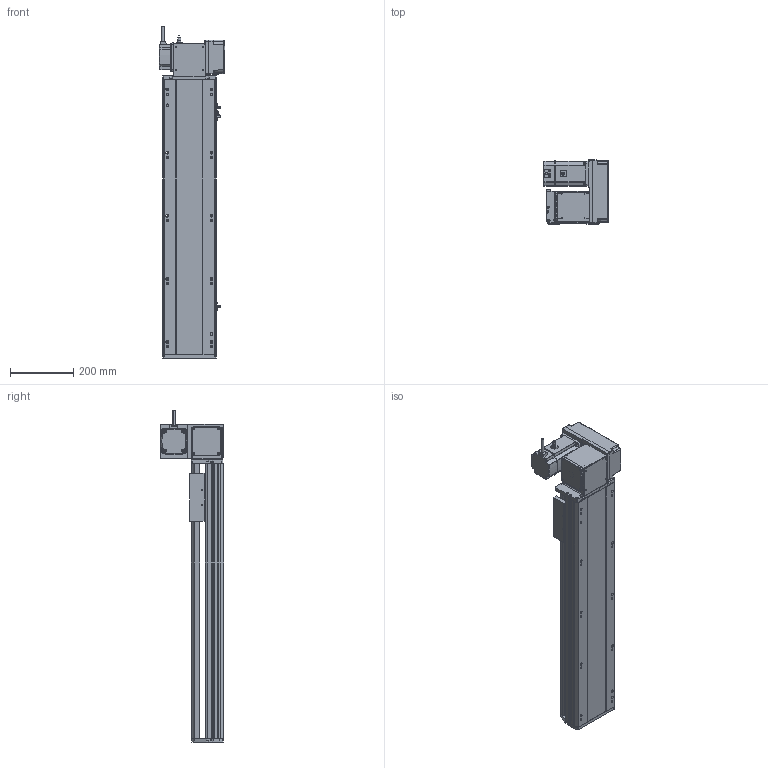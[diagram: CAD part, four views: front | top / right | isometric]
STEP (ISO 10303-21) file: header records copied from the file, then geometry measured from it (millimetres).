
FILE_DESCRIPTION (( 'STEP AP214' ), '1' );
FILE_NAME ('RTB17S-XX-600-RW-M75-C4.STEP', '2025-12-12T02:33:35', ( '' ), ( '' ), 'SwSTEP 2.0', 'SolidWorks 2018', '' );
FILE_SCHEMA (( 'AUTOMOTIVE_DESIGN' ));
Length unit declared in the file: millimetre
Products named in the file (15): RMP17S-L-014-T20-P75--々湍釱^RTB17S-RW-々湍釱蚾饜-750W_RTB17S-XX-XX-RW-M75-C4; 750W萇儂^RTB17S-XX-XX-RW-M75-C4; RTB17S-L-004-賑釱^RTB17S-賑釱_RTB17S-XX-XX-RW-M75-C4; RTB22S-GY-017P^RTB17S-RW-々湍釱蚾饜-750W_RTB17S-XX-XX-RW-M75-C4; RTB17S-RW-々湍釱蚾饜-750W^RTB17S-XX-XX-RW-M75-C4; RTB17S-L-001-耜醱啣^RTB17S-XX-XX-RW-M75-C4; RTB22S-GY-018P^RTB17S-RW-々湍釱蚾饜-750W_RTB17S-XX-XX-RW-M75-C4; RTB22S-GY-008-M75--萇儂啣^RTB17S-RW-々湍釱蚾饜-750W_RTB17S-XX-XX-RW-M75-C4; RTH13-BL-012覜茼え俋离^RTB17S-賑釱_RTB17S-XX-XX-RW-M75-C4; RTB17-R-011菁釱^RTB17S-XX-XX-RW-M75-C4; EE672^RTB17S-XX-XX-RW-M75-C4; RTB17S-賑釱^RTB17S-XX-XX-RW-M75-C4; RTB17S-XX-600-RW-M75-C4; RTB22S-GY-005P^RTB17S-RW-々湍釱蚾饜-750W_RTB17S-XX-XX-RW-M75-C4; RTB17S-L-007奻裔^RTB17S-XX-XX-RW-M75-C4
Assembly tree (17 placements, depth 3):
  RTB17S-XX-600-RW-M75-C4
    RTB17-R-011菁釱^RTB17S-XX-XX-RW-M75-C4
    EE672^RTB17S-XX-XX-RW-M75-C4  x3
    RTB17S-L-001-耜醱啣^RTB17S-XX-XX-RW-M75-C4
    RTB17S-賑釱^RTB17S-XX-XX-RW-M75-C4
      RTB17S-L-004-賑釱^RTB17S-賑釱_RTB17S-XX-XX-RW-M75-C4
      RTH13-BL-012覜茼え俋离^RTB17S-賑釱_RTB17S-XX-XX-RW-M75-C4
    RTB17S-L-007奻裔^RTB17S-XX-XX-RW-M75-C4
    750W萇儂^RTB17S-XX-XX-RW-M75-C4
    RTB17S-RW-々湍釱蚾饜-750W^RTB17S-XX-XX-RW-M75-C4
      RMP17S-L-014-T20-P75--々湍釱^RTB17S-RW-々湍釱蚾饜-750W_RTB17S-XX-XX-RW-M75-C4
      RTB22S-GY-005P^RTB17S-RW-々湍釱蚾饜-750W_RTB17S-XX-XX-RW-M75-C4
      RTB22S-GY-017P^RTB17S-RW-々湍釱蚾饜-750W_RTB17S-XX-XX-RW-M75-C4  x2
      RTB22S-GY-008-M75--萇儂啣^RTB17S-RW-々湍釱蚾饜-750W_RTB17S-XX-XX-RW-M75-C4
      RTB22S-GY-018P^RTB17S-RW-々湍釱蚾饜-750W_RTB17S-XX-XX-RW-M75-C4
Bounding box: 207.4 x 201.5 x 1052.2 mm (x, y, z)
Volume: 9703296.7 mm3; surface area: 1578688.1 mm2
Topology: 17 solids, 17 shells, 2057 faces, 5674 edges, 3662 vertices
Faces by surface type: plane 966, cylinder 675, bspline 294, cone 110, sphere 8, torus 4
Entity records: 56566 total; most frequent: CARTESIAN_POINT 16538, ORIENTED_EDGE 8192, DIRECTION 7682, EDGE_CURVE 4096, AXIS2_PLACEMENT_3D 2682, VERTEX_POINT 2666, VECTOR 2318, LINE 2318
